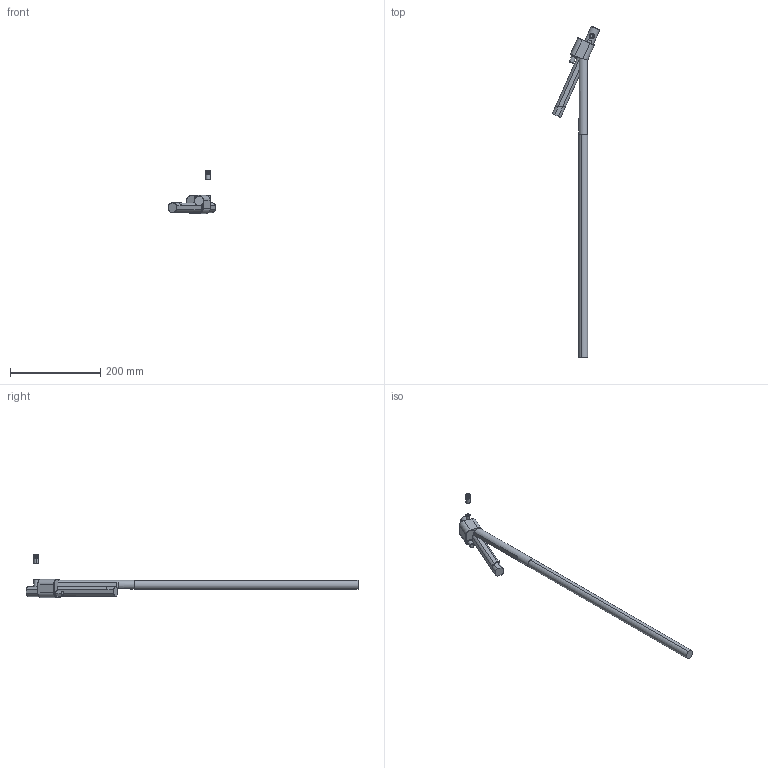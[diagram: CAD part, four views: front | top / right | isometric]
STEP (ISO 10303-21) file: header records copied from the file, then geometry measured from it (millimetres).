
FILE_DESCRIPTION (( 'STEP AP214' ), '1' );
FILE_NAME ('XR40100L-24-00.STEP', '2024-07-28T13:36:58', ( '' ), ( '' ), 'SwSTEP 2.0', 'SolidWorks 2021', '' );
FILE_SCHEMA (( 'AUTOMOTIVE_DESIGN' ));
Length unit declared in the file: millimetre
Products named in the file (8): XR40100L-BASE_BASE40-24; 9DRXX-AL_9DR40-AL; 9DR4010FR_Predeterminado; 9DRXXXXFF_9DR4010FF; XR40100L-24-00; XR40100L-EV_EVXR40-24-00; XR40100L-EI_EIXR40-24-00; 9DRXXXX-TOR_9DR4010-TOR
Assembly tree (7 placements, depth 2):
  XR40100L-24-00
    XR40100L-BASE_BASE40-24
    XR40100L-EI_EIXR40-24-00
    XR40100L-EV_EVXR40-24-00
    9DRXX-AL_9DR40-AL
    9DRXXXX-TOR_9DR4010-TOR
    9DRXXXXFF_9DR4010FF
    9DR4010FR_Predeterminado
Bounding box: 104.65 x 733.85 x 95.2 mm (x, y, z)
Volume: 323714.5 mm3; surface area: 79888.5 mm2
Topology: 8 solids, 8 shells, 245 faces, 587 edges, 368 vertices
Faces by surface type: plane 102, cylinder 74, cone 55, bspline 11, torus 3
Entity records: 9591 total; most frequent: CARTESIAN_POINT 3744, ORIENTED_EDGE 1162, DIRECTION 1128, EDGE_CURVE 581, AXIS2_PLACEMENT_3D 418, VERTEX_POINT 368, VECTOR 292, LINE 292
